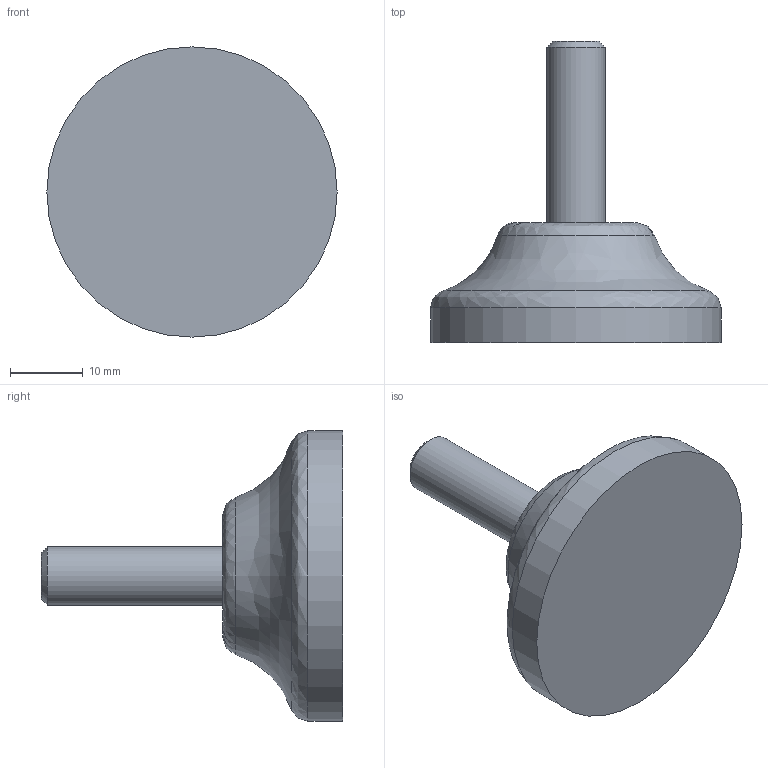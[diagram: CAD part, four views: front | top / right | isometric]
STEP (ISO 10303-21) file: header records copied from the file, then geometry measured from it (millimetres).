
FILE_DESCRIPTION(('STEP AP203'),'2;1');
FILE_NAME('9000.stp','2015-02-18T18:24:15',(''),(''),'2008.1.107','THINKDESIGN','');
FILE_SCHEMA(('CONFIG_CONTROL_DESIGN'));
Length unit declared in the file: millimetre
Bounding box: 40 x 41.5 x 40 mm (x, y, z)
Volume: 14929.9 mm3; surface area: 4398.1 mm2
Topology: 2 solids, 2 shells, 23 faces, 52 edges, 34 vertices
Faces by surface type: plane 11, bspline 10, cylinder 2
Full cylindrical faces by diameter (mm): 8 x1, 39.997 x1
Entity records: 958 total; most frequent: CARTESIAN_POINT 360, ORIENTED_EDGE 104, DIRECTION 97, EDGE_CURVE 52, VERTEX_POINT 34, VECTOR 33, LINE 33, AXIS2_PLACEMENT_3D 32
